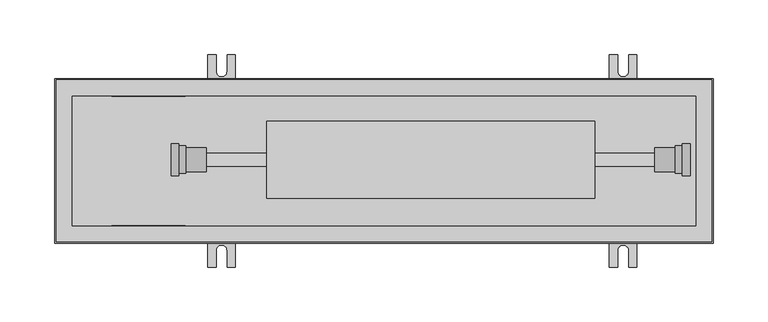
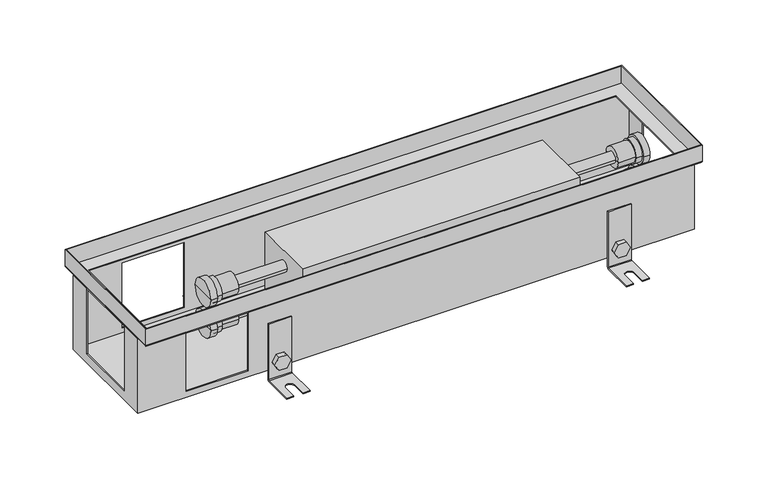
"""IFC4 building model written with IfcOpenShell, lengths in millimetres: proxy geometry, TECHNO_Конвектор встраиваемый_Power_KVP_150_65-85-105 : KVP 150-105."""

from ifc_helpers import new_model, si_unit, point, frame, frame_2d, origin, place, context, project, spatial, polyline, circle_curve, ellipse_curve, trimmed, segment, composite_curve, outline, extrude, faceted_brep, source, transform, mapped, element, save
from ifc_brep_helpers import plane_surface, cylinder_surface, revolved_surface, advanced_brep


def mechanical_equipment_002f7a25(model_context):
    return source(origin(), model_context, "Body", "SolidModel", [
        extrude(outline(composite_curve([segment(trimmed(circle_curve(frame_2d((-95.5, 518.0)), 7.5), [point((-95.5, 510.5))], [point((-95.5, 525.5))], False, "CARTESIAN"), True, "CONTINUOUS"), segment(trimmed(circle_curve(frame_2d((-95.5, 518.0)), 7.5), [point((-95.5, 525.5))], [point((-95.5, 510.5))], False, "CARTESIAN"), True, "CONTINUOUS")], self_intersect=False)), frame((0.0, 60.2, 0.0), z_axis=(0.0, 1.0, 0.0), x_axis=(0.0, 0.0, 1.0)), (0.0, 0.0, 1.0), 1.5),
        extrude(outline(polyline([(-95.5, 509.339746), (-103.0, 513.669873), (-103.0, 522.330127), (-95.5, 526.660254), (-88.0, 522.330127), (-88.0, 513.669873), (-95.5, 509.339746)])), frame((0.0, 62.9, 0.0), z_axis=(0.0, 1.0, 0.0), x_axis=(0.0, 0.0, 1.0)), (0.0, 0.0, 1.0), 5.1),
        advanced_brep(
        [(530.5, 62.9, -50.5), (530.5, 61.7, -50.5), (530.5, 61.7, -113.5), (530.5, 63.7, -115.5), (530.5, 96.7, -115.5), (530.5, 96.7, -114.3), (530.5, 63.7, -114.3), (530.5, 62.9, -113.5), (505.5, 62.9, -50.5), (505.5, 62.9, -113.5), (505.5, 63.7, -114.3), (505.5, 96.7, -114.3), (505.5, 96.7, -115.5), (505.5, 63.7, -115.5), (505.5, 61.7, -113.5), (505.5, 61.7, -50.5), (523.0, 96.7, -114.3), (523.0, 81.7, -114.3), (513.0, 81.7, -114.3), (513.0, 96.7, -114.3), (513.0, 96.7, -115.5), (523.0, 96.7, -115.5), (513.0, 81.7, -115.5), (523.0, 81.7, -115.5)],
        [
            (0, 1),
            (1, 2),
            (2, 3, circle_curve(frame((530.5, 63.7, -113.5), z_axis=(1.0, 0.0, 0.0), x_axis=(0.0, 1.0, 0.0)), 2.0)),
            (3, 4),
            (4, 5),
            (5, 6),
            (6, 7, circle_curve(frame((530.5, 63.7, -113.5), z_axis=(-1.0, 0.0, 0.0), x_axis=(0.0, 1.0, 0.0)), 0.8)),
            (7, 0),
            (8, 9),
            (9, 10, circle_curve(frame((505.5, 63.7, -113.5), z_axis=(1.0, 0.0, 0.0), x_axis=(0.0, 1.0, 0.0)), 0.8)),
            (10, 11),
            (11, 12),
            (12, 13),
            (13, 14, circle_curve(frame((505.5, 63.7, -113.5), z_axis=(-1.0, 0.0, 0.0), x_axis=(0.0, 1.0, 0.0)), 2.0)),
            (14, 15),
            (15, 8),
            (7, 9),
            (8, 0),
            (6, 10),
            (5, 16),
            (16, 17),
            (17, 18, circle_curve(frame((518.0, 81.7, -114.3), z_axis=(0.0, 0.0, -1.0), x_axis=(1.0, 0.0, 0.0)), 5.0)),
            (18, 19),
            (19, 11),
            (19, 20),
            (20, 12),
            (4, 21),
            (21, 16),
            (3, 13),
            (20, 22),
            (22, 23, circle_curve(frame((518.0, 81.7, -115.5), z_axis=(0.0, 0.0, 1.0), x_axis=(1.0, 0.0, 0.0)), 5.0)),
            (23, 21),
            (2, 14),
            (1, 15),
            (18, 22),
            (23, 17),
        ],
        [
            plane_surface(frame((530.5, 62.9, -50.5), z_axis=(1.0, 0.0, 0.0), x_axis=(0.0, 0.0, -1.0))),
            plane_surface(frame((505.5, 62.9, -50.5), z_axis=(-1.0, 0.0, 0.0), x_axis=(0.0, 0.0, 1.0))),
            plane_surface(frame((530.5, 62.9, -50.5), z_axis=(0.0, 1.0, 0.0), x_axis=(-1.0, 0.0, 0.0))),
            revolved_surface(polyline([(505.5, 64.5, -113.5), (530.5, 64.5, -113.5)]), (505.5, 63.7, -113.5), (-1.0, 0.0, 0.0)),
            plane_surface(frame((530.5, 63.7, -114.3), z_axis=(0.0, 0.0, 1.0), x_axis=(-1.0, 0.0, 0.0))),
            plane_surface(frame((530.5, 96.7, -114.3), z_axis=(0.0, 1.0, 0.0), x_axis=(-1.0, 0.0, 0.0))),
            plane_surface(frame((530.5, 96.7, -115.5), z_axis=(0.0, 0.0, -1.0), x_axis=(-1.0, 0.0, 0.0))),
            cylinder_surface(frame((505.5, 63.7, -113.5), z_axis=(1.0, 0.0, 0.0), x_axis=(0.0, 1.0, 0.0)), 2.0),
            plane_surface(frame((530.5, 61.7, -113.5), z_axis=(0.0, -1.0, 0.0), x_axis=(-1.0, 0.0, 0.0))),
            plane_surface(frame((530.5, 61.7, -50.5), z_axis=(0.0, 0.0, 1.0), x_axis=(-1.0, 0.0, 0.0))),
            plane_surface(frame((513.0, 81.7, -114.3), z_axis=(1.0, 0.0, 0.0), x_axis=(0.0, 0.0, -1.0))),
            plane_surface(frame((523.0, 96.7, -114.3), z_axis=(-1.0, 0.0, 0.0), x_axis=(0.0, 0.0, -1.0))),
            revolved_surface(polyline([(523.0, 81.7, -114.3), (523.0, 81.7, -115.5)]), (518.0, 81.7, -115.5), (0.0, 0.0, 1.0)),
        ],
        [
            (0, [[1, 2, 3, 4, 5, 6, 7, 8]]),
            (1, [[9, 10, 11, 12, 13, 14, 15, 16]]),
            (2, [[17, -9, 18, -8]]),
            (3, [[19, -10, -17, -7]]),
            (4, [[20, 21, 22, 23, 24, -11, -19, -6]]),
            (5, [[-24, 25, 26, -12]]),
            (5, [[27, 28, -20, -5]]),
            (6, [[29, -13, -26, 30, 31, 32, -27, -4]]),
            (7, [[33, -14, -29, -3]]),
            (8, [[34, -15, -33, -2]]),
            (9, [[-18, -16, -34, -1]]),
            (10, [[-30, -25, -23, 35]]),
            (11, [[-21, -28, -32, 36]]),
            (12, [[-22, -36, -31, -35]]),
        ],
    ),
        extrude(outline(composite_curve([segment(trimmed(circle_curve(frame_2d((-95.5, 518.0)), 7.5), [point((-95.5, 510.5))], [point((-95.5, 525.5))], False, "CARTESIAN"), True, "CONTINUOUS"), segment(trimmed(circle_curve(frame_2d((-95.5, 518.0)), 7.5), [point((-95.5, 525.5))], [point((-95.5, 510.5))], False, "CARTESIAN"), True, "CONTINUOUS")], self_intersect=False)), frame((0.0, -61.7, 0.0), z_axis=(0.0, 1.0, 0.0), x_axis=(0.0, 0.0, 1.0)), (0.0, 0.0, 1.0), 1.5),
        extrude(outline(polyline([(-95.5, 509.339746), (-103.0, 513.669873), (-103.0, 522.330127), (-95.5, 526.660254), (-88.0, 522.330127), (-88.0, 513.669873), (-95.5, 509.339746)])), frame((0.0, -68.0, 0.0), z_axis=(0.0, 1.0, 0.0), x_axis=(0.0, 0.0, 1.0)), (0.0, 0.0, 1.0), 5.1),
        advanced_brep(
        [(530.5, -62.9, -50.5), (530.5, -62.9, -113.5), (530.5, -63.7, -114.3), (530.5, -96.7, -114.3), (530.5, -96.7, -115.5), (530.5, -63.7, -115.5), (530.5, -61.7, -113.5), (530.5, -61.7, -50.5), (505.5, -62.9, -50.5), (505.5, -61.7, -50.5), (505.5, -61.7, -113.5), (505.5, -63.7, -115.5), (505.5, -96.7, -115.5), (505.5, -96.7, -114.3), (505.5, -63.7, -114.3), (505.5, -62.9, -113.5), (513.0, -96.7, -114.3), (513.0, -81.7, -114.3), (523.0, -81.7, -114.3), (523.0, -96.7, -114.3), (523.0, -96.7, -115.5), (513.0, -96.7, -115.5), (523.0, -81.7, -115.5), (513.0, -81.7, -115.5)],
        [
            (0, 1),
            (1, 2, circle_curve(frame((530.5, -63.7, -113.5), z_axis=(-1.0, 0.0, 0.0), x_axis=(0.0, -1.0, 0.0)), 0.8)),
            (2, 3),
            (3, 4),
            (4, 5),
            (5, 6, circle_curve(frame((530.5, -63.7, -113.5), z_axis=(1.0, 0.0, 0.0), x_axis=(0.0, -1.0, 0.0)), 2.0)),
            (6, 7),
            (7, 0),
            (8, 9),
            (9, 10),
            (10, 11, circle_curve(frame((505.5, -63.7, -113.5), z_axis=(-1.0, 0.0, 0.0), x_axis=(0.0, -1.0, 0.0)), 2.0)),
            (11, 12),
            (12, 13),
            (13, 14),
            (14, 15, circle_curve(frame((505.5, -63.7, -113.5), z_axis=(1.0, 0.0, 0.0), x_axis=(0.0, -1.0, 0.0)), 0.8)),
            (15, 8),
            (0, 8),
            (15, 1),
            (14, 2),
            (13, 16),
            (16, 17),
            (17, 18, circle_curve(frame((518.0, -81.7, -114.3), z_axis=(0.0, 0.0, -1.0), x_axis=(1.0, 0.0, 0.0)), 5.0)),
            (18, 19),
            (19, 3),
            (19, 20),
            (20, 4),
            (12, 21),
            (21, 16),
            (20, 22),
            (22, 23, circle_curve(frame((518.0, -81.7, -115.5), z_axis=(0.0, 0.0, 1.0), x_axis=(1.0, 0.0, 0.0)), 5.0)),
            (23, 21),
            (11, 5),
            (10, 6),
            (9, 7),
            (23, 17),
            (18, 22),
        ],
        [
            plane_surface(frame((530.5, -62.9, -50.5), z_axis=(1.0, 0.0, 0.0), x_axis=(0.0, 0.0, -1.0))),
            plane_surface(frame((505.5, -62.9, -50.5), z_axis=(-1.0, 0.0, 0.0), x_axis=(0.0, 0.0, 1.0))),
            plane_surface(frame((530.5, -62.9, -50.5), z_axis=(0.0, -1.0, 0.0), x_axis=(-1.0, 0.0, 0.0))),
            revolved_surface(polyline([(505.5, -64.5, -113.5), (530.5, -64.5, -113.5)]), (505.5, -63.7, -113.5), (-1.0, 0.0, 0.0)),
            plane_surface(frame((530.5, -63.7, -114.3), z_axis=(0.0, 0.0, 1.0), x_axis=(-1.0, 0.0, 0.0))),
            plane_surface(frame((530.5, -96.7, -114.3), z_axis=(0.0, -1.0, 0.0), x_axis=(-1.0, 0.0, 0.0))),
            plane_surface(frame((530.5, -96.7, -115.5), z_axis=(0.0, 0.0, -1.0), x_axis=(-1.0, 0.0, 0.0))),
            cylinder_surface(frame((505.5, -63.7, -113.5), z_axis=(1.0, 0.0, 0.0), x_axis=(0.0, -1.0, 0.0)), 2.0),
            plane_surface(frame((530.5, -61.7, -113.5), z_axis=(0.0, 1.0, 0.0), x_axis=(-1.0, 0.0, 0.0))),
            plane_surface(frame((530.5, -61.7, -50.5), z_axis=(0.0, 0.0, 1.0), x_axis=(-1.0, 0.0, 0.0))),
            plane_surface(frame((513.0, -81.7, -114.3), z_axis=(1.0, 0.0, 0.0), x_axis=(0.0, 0.0, -1.0))),
            plane_surface(frame((523.0, -96.7, -114.3), z_axis=(-1.0, 0.0, 0.0), x_axis=(0.0, 0.0, -1.0))),
            revolved_surface(polyline([(523.0, -81.7, -114.3), (523.0, -81.7, -115.5)]), (518.0, -81.7, -115.5), (0.0, 0.0, 1.0)),
        ],
        [
            (0, [[1, 2, 3, 4, 5, 6, 7, 8]]),
            (1, [[9, 10, 11, 12, 13, 14, 15, 16]]),
            (2, [[-1, 17, -16, 18]]),
            (3, [[-2, -18, -15, 19]]),
            (4, [[-3, -19, -14, 20, 21, 22, 23, 24]]),
            (5, [[-4, -24, 25, 26]]),
            (5, [[-13, 27, 28, -20]]),
            (6, [[-5, -26, 29, 30, 31, -27, -12, 32]]),
            (7, [[-6, -32, -11, 33]]),
            (8, [[-7, -33, -10, 34]]),
            (9, [[-8, -34, -9, -17]]),
            (10, [[35, -21, -28, -31]]),
            (11, [[36, -29, -25, -23]]),
            (12, [[-35, -30, -36, -22]]),
        ],
    ),
        extrude(outline(composite_curve([segment(trimmed(circle_curve(frame_2d((-95.5, 152.0)), 7.5), [point((-95.5, 144.5))], [point((-95.5, 159.5))], False, "CARTESIAN"), True, "CONTINUOUS"), segment(trimmed(circle_curve(frame_2d((-95.5, 152.0)), 7.5), [point((-95.5, 159.5))], [point((-95.5, 144.5))], False, "CARTESIAN"), True, "CONTINUOUS")], self_intersect=False)), frame((0.0, 60.2, 0.0), z_axis=(0.0, 1.0, 0.0), x_axis=(0.0, 0.0, 1.0)), (0.0, 0.0, 1.0), 1.5),
        extrude(outline(polyline([(-95.5, 143.339746), (-103.0, 147.669873), (-103.0, 156.330127), (-95.5, 160.660254), (-88.0, 156.330127), (-88.0, 147.669873), (-95.5, 143.339746)])), frame((0.0, 62.9, 0.0), z_axis=(0.0, 1.0, 0.0), x_axis=(0.0, 0.0, 1.0)), (0.0, 0.0, 1.0), 5.1),
        advanced_brep(
        [(164.5, 62.9, -50.5), (164.5, 61.7, -50.5), (164.5, 61.7, -113.5), (164.5, 63.7, -115.5), (164.5, 96.7, -115.5), (164.5, 96.7, -114.3), (164.5, 63.7, -114.3), (164.5, 62.9, -113.5), (139.5, 62.9, -50.5), (139.5, 62.9, -113.5), (139.5, 63.7, -114.3), (139.5, 96.7, -114.3), (139.5, 96.7, -115.5), (139.5, 63.7, -115.5), (139.5, 61.7, -113.5), (139.5, 61.7, -50.5), (157.0, 96.7, -114.3), (157.0, 81.7, -114.3), (147.0, 81.7, -114.3), (147.0, 96.7, -114.3), (147.0, 96.7, -115.5), (157.0, 96.7, -115.5), (147.0, 81.7, -115.5), (157.0, 81.7, -115.5)],
        [
            (0, 1),
            (1, 2),
            (2, 3, circle_curve(frame((164.5, 63.7, -113.5), z_axis=(1.0, 0.0, 0.0), x_axis=(0.0, 1.0, 0.0)), 2.0)),
            (3, 4),
            (4, 5),
            (5, 6),
            (6, 7, circle_curve(frame((164.5, 63.7, -113.5), z_axis=(-1.0, 0.0, 0.0), x_axis=(0.0, 1.0, 0.0)), 0.8)),
            (7, 0),
            (8, 9),
            (9, 10, circle_curve(frame((139.5, 63.7, -113.5), z_axis=(1.0, 0.0, 0.0), x_axis=(0.0, 1.0, 0.0)), 0.8)),
            (10, 11),
            (11, 12),
            (12, 13),
            (13, 14, circle_curve(frame((139.5, 63.7, -113.5), z_axis=(-1.0, 0.0, 0.0), x_axis=(0.0, 1.0, 0.0)), 2.0)),
            (14, 15),
            (15, 8),
            (7, 9),
            (8, 0),
            (6, 10),
            (5, 16),
            (16, 17),
            (17, 18, circle_curve(frame((152.0, 81.7, -114.3), z_axis=(0.0, 0.0, -1.0), x_axis=(1.0, 0.0, 0.0)), 5.0)),
            (18, 19),
            (19, 11),
            (19, 20),
            (20, 12),
            (4, 21),
            (21, 16),
            (3, 13),
            (20, 22),
            (22, 23, circle_curve(frame((152.0, 81.7, -115.5), z_axis=(0.0, 0.0, 1.0), x_axis=(1.0, 0.0, 0.0)), 5.0)),
            (23, 21),
            (2, 14),
            (1, 15),
            (18, 22),
            (23, 17),
        ],
        [
            plane_surface(frame((164.5, 62.9, -50.5), z_axis=(1.0, 0.0, 0.0), x_axis=(0.0, 0.0, -1.0))),
            plane_surface(frame((139.5, 62.9, -50.5), z_axis=(-1.0, 0.0, 0.0), x_axis=(0.0, 0.0, 1.0))),
            plane_surface(frame((164.5, 62.9, -50.5), z_axis=(0.0, 1.0, 0.0), x_axis=(-1.0, 0.0, 0.0))),
            revolved_surface(polyline([(139.5, 64.5, -113.5), (164.5, 64.5, -113.5)]), (139.5, 63.7, -113.5), (-1.0, 0.0, 0.0)),
            plane_surface(frame((164.5, 63.7, -114.3), z_axis=(0.0, 0.0, 1.0), x_axis=(-1.0, 0.0, 0.0))),
            plane_surface(frame((164.5, 96.7, -114.3), z_axis=(0.0, 1.0, 0.0), x_axis=(-1.0, 0.0, 0.0))),
            plane_surface(frame((164.5, 96.7, -115.5), z_axis=(0.0, 0.0, -1.0), x_axis=(-1.0, 0.0, 0.0))),
            cylinder_surface(frame((139.5, 63.7, -113.5), z_axis=(1.0, 0.0, 0.0), x_axis=(0.0, 1.0, 0.0)), 2.0),
            plane_surface(frame((164.5, 61.7, -113.5), z_axis=(0.0, -1.0, 0.0), x_axis=(-1.0, 0.0, 0.0))),
            plane_surface(frame((164.5, 61.7, -50.5), z_axis=(0.0, 0.0, 1.0), x_axis=(-1.0, 0.0, 0.0))),
            plane_surface(frame((147.0, 81.7, -114.3), z_axis=(1.0, 0.0, 0.0), x_axis=(0.0, 0.0, -1.0))),
            plane_surface(frame((157.0, 96.7, -114.3), z_axis=(-1.0, 0.0, 0.0), x_axis=(0.0, 0.0, -1.0))),
            revolved_surface(polyline([(157.0, 81.7, -114.3), (157.0, 81.7, -115.5)]), (152.0, 81.7, -115.5), (0.0, 0.0, 1.0)),
        ],
        [
            (0, [[1, 2, 3, 4, 5, 6, 7, 8]]),
            (1, [[9, 10, 11, 12, 13, 14, 15, 16]]),
            (2, [[17, -9, 18, -8]]),
            (3, [[19, -10, -17, -7]]),
            (4, [[20, 21, 22, 23, 24, -11, -19, -6]]),
            (5, [[-24, 25, 26, -12]]),
            (5, [[27, 28, -20, -5]]),
            (6, [[29, -13, -26, 30, 31, 32, -27, -4]]),
            (7, [[33, -14, -29, -3]]),
            (8, [[34, -15, -33, -2]]),
            (9, [[-18, -16, -34, -1]]),
            (10, [[-30, -25, -23, 35]]),
            (11, [[-21, -28, -32, 36]]),
            (12, [[-22, -36, -31, -35]]),
        ],
    ),
        extrude(outline(composite_curve([segment(trimmed(circle_curve(frame_2d((-95.5, 152.0)), 7.5), [point((-95.5, 144.5))], [point((-95.5, 159.5))], False, "CARTESIAN"), True, "CONTINUOUS"), segment(trimmed(circle_curve(frame_2d((-95.5, 152.0)), 7.5), [point((-95.5, 159.5))], [point((-95.5, 144.5))], False, "CARTESIAN"), True, "CONTINUOUS")], self_intersect=False)), frame((0.0, -61.7, 0.0), z_axis=(0.0, 1.0, 0.0), x_axis=(0.0, 0.0, 1.0)), (0.0, 0.0, 1.0), 1.5),
        extrude(outline(polyline([(-95.5, 143.339746), (-103.0, 147.669873), (-103.0, 156.330127), (-95.5, 160.660254), (-88.0, 156.330127), (-88.0, 147.669873), (-95.5, 143.339746)])), frame((0.0, -68.0, 0.0), z_axis=(0.0, 1.0, 0.0), x_axis=(0.0, 0.0, 1.0)), (0.0, 0.0, 1.0), 5.1),
        advanced_brep(
        [(164.5, -62.9, -50.5), (164.5, -62.9, -113.5), (164.5, -63.7, -114.3), (164.5, -96.7, -114.3), (164.5, -96.7, -115.5), (164.5, -63.7, -115.5), (164.5, -61.7, -113.5), (164.5, -61.7, -50.5), (139.5, -62.9, -50.5), (139.5, -61.7, -50.5), (139.5, -61.7, -113.5), (139.5, -63.7, -115.5), (139.5, -96.7, -115.5), (139.5, -96.7, -114.3), (139.5, -63.7, -114.3), (139.5, -62.9, -113.5), (147.0, -96.7, -114.3), (147.0, -81.7, -114.3), (157.0, -81.7, -114.3), (157.0, -96.7, -114.3), (157.0, -96.7, -115.5), (147.0, -96.7, -115.5), (157.0, -81.7, -115.5), (147.0, -81.7, -115.5)],
        [
            (0, 1),
            (1, 2, circle_curve(frame((164.5, -63.7, -113.5), z_axis=(-1.0, 0.0, 0.0), x_axis=(0.0, -1.0, 0.0)), 0.8)),
            (2, 3),
            (3, 4),
            (4, 5),
            (5, 6, circle_curve(frame((164.5, -63.7, -113.5), z_axis=(1.0, 0.0, 0.0), x_axis=(0.0, -1.0, 0.0)), 2.0)),
            (6, 7),
            (7, 0),
            (8, 9),
            (9, 10),
            (10, 11, circle_curve(frame((139.5, -63.7, -113.5), z_axis=(-1.0, 0.0, 0.0), x_axis=(0.0, -1.0, 0.0)), 2.0)),
            (11, 12),
            (12, 13),
            (13, 14),
            (14, 15, circle_curve(frame((139.5, -63.7, -113.5), z_axis=(1.0, 0.0, 0.0), x_axis=(0.0, -1.0, 0.0)), 0.8)),
            (15, 8),
            (0, 8),
            (15, 1),
            (14, 2),
            (13, 16),
            (16, 17),
            (17, 18, circle_curve(frame((152.0, -81.7, -114.3), z_axis=(0.0, 0.0, -1.0), x_axis=(1.0, 0.0, 0.0)), 5.0)),
            (18, 19),
            (19, 3),
            (19, 20),
            (20, 4),
            (12, 21),
            (21, 16),
            (20, 22),
            (22, 23, circle_curve(frame((152.0, -81.7, -115.5), z_axis=(0.0, 0.0, 1.0), x_axis=(1.0, 0.0, 0.0)), 5.0)),
            (23, 21),
            (11, 5),
            (10, 6),
            (9, 7),
            (23, 17),
            (18, 22),
        ],
        [
            plane_surface(frame((164.5, -62.9, -50.5), z_axis=(1.0, 0.0, 0.0), x_axis=(0.0, 0.0, -1.0))),
            plane_surface(frame((139.5, -62.9, -50.5), z_axis=(-1.0, 0.0, 0.0), x_axis=(0.0, 0.0, 1.0))),
            plane_surface(frame((164.5, -62.9, -50.5), z_axis=(0.0, -1.0, 0.0), x_axis=(-1.0, 0.0, 0.0))),
            revolved_surface(polyline([(139.5, -64.5, -113.5), (164.5, -64.5, -113.5)]), (139.5, -63.7, -113.5), (-1.0, 0.0, 0.0)),
            plane_surface(frame((164.5, -63.7, -114.3), z_axis=(0.0, 0.0, 1.0), x_axis=(-1.0, 0.0, 0.0))),
            plane_surface(frame((164.5, -96.7, -114.3), z_axis=(0.0, -1.0, 0.0), x_axis=(-1.0, 0.0, 0.0))),
            plane_surface(frame((164.5, -96.7, -115.5), z_axis=(0.0, 0.0, -1.0), x_axis=(-1.0, 0.0, 0.0))),
            cylinder_surface(frame((139.5, -63.7, -113.5), z_axis=(1.0, 0.0, 0.0), x_axis=(0.0, -1.0, 0.0)), 2.0),
            plane_surface(frame((164.5, -61.7, -113.5), z_axis=(0.0, 1.0, 0.0), x_axis=(-1.0, 0.0, 0.0))),
            plane_surface(frame((164.5, -61.7, -50.5), z_axis=(0.0, 0.0, 1.0), x_axis=(-1.0, 0.0, 0.0))),
            plane_surface(frame((147.0, -81.7, -114.3), z_axis=(1.0, 0.0, 0.0), x_axis=(0.0, 0.0, -1.0))),
            plane_surface(frame((157.0, -96.7, -114.3), z_axis=(-1.0, 0.0, 0.0), x_axis=(0.0, 0.0, -1.0))),
            revolved_surface(polyline([(157.0, -81.7, -114.3), (157.0, -81.7, -115.5)]), (152.0, -81.7, -115.5), (0.0, 0.0, 1.0)),
        ],
        [
            (0, [[1, 2, 3, 4, 5, 6, 7, 8]]),
            (1, [[9, 10, 11, 12, 13, 14, 15, 16]]),
            (2, [[-1, 17, -16, 18]]),
            (3, [[-2, -18, -15, 19]]),
            (4, [[-3, -19, -14, 20, 21, 22, 23, 24]]),
            (5, [[-4, -24, 25, 26]]),
            (5, [[-13, 27, 28, -20]]),
            (6, [[-5, -26, 29, 30, 31, -27, -12, 32]]),
            (7, [[-6, -32, -11, 33]]),
            (8, [[-7, -33, -10, 34]]),
            (9, [[-8, -34, -9, -17]]),
            (10, [[35, -21, -28, -31]]),
            (11, [[36, -29, -25, -23]]),
            (12, [[-35, -30, -36, -22]]),
        ],
    ),
        extrude(outline(composite_curve([segment(trimmed(circle_curve(frame_2d((1.2, -41.5)), 6.0), [point((-4.8, -41.5))], [point((7.2, -41.5))], False, "CARTESIAN"), True, "CONTINUOUS"), segment(trimmed(circle_curve(frame_2d((1.2, -41.5)), 6.0), [point((7.2, -41.5))], [point((-4.8, -41.5))], False, "CARTESIAN"), True, "CONTINUOUS")], self_intersect=False)), frame((138.0, 0.0, 0.0), z_axis=(1.0, 0.0, 0.0), x_axis=(0.0, 1.0, 0.0)), (0.0, 0.0, 1.0), 409.0),
        advanced_brep(
        [(138.0, -9.8, -76.5), (138.0, 12.2, -76.5), (138.0, 1.2, -76.5), (119.5, -9.8, -76.5), (119.5, 12.2, -76.5), (119.5, -11.3, -76.5), (119.5, 13.7, -76.5), (113.0, -11.3, -76.5), (113.0, 13.7, -76.5), (113.0, -13.5, -76.5), (113.0, 15.9, -76.5), (106.0, -13.5, -76.5), (106.0, 15.9, -76.5), (106.0, 1.2, -76.5)],
        [
            (0, 1, circle_curve(frame((138.0, 1.2, -76.5), z_axis=(1.0, 0.0, 0.0), x_axis=(0.0, 1.0, 0.0)), 11.0)),
            (1, 2),
            (2, 0),
            (1, 0, circle_curve(frame((138.0, 1.2, -76.5), z_axis=(1.0, 0.0, 0.0), x_axis=(0.0, 1.0, 0.0)), 11.0)),
            (3, 4, circle_curve(frame((119.5, 1.2, -76.5), z_axis=(1.0, 0.0, 0.0), x_axis=(0.0, 1.0, 0.0)), 11.0)),
            (4, 1),
            (0, 3),
            (4, 3, circle_curve(frame((119.5, 1.2, -76.5), z_axis=(1.0, 0.0, 0.0), x_axis=(0.0, 1.0, 0.0)), 11.0)),
            (5, 6, circle_curve(frame((119.5, 1.2, -76.5), z_axis=(1.0, 0.0, 0.0), x_axis=(0.0, 1.0, 0.0)), 12.5)),
            (6, 4),
            (3, 5),
            (6, 5, circle_curve(frame((119.5, 1.2, -76.5), z_axis=(1.0, 0.0, 0.0), x_axis=(0.0, 1.0, 0.0)), 12.5)),
            (7, 8, circle_curve(frame((113.0, 1.2, -76.5), z_axis=(1.0, 0.0, 0.0), x_axis=(0.0, 1.0, 0.0)), 12.5)),
            (8, 6),
            (5, 7),
            (8, 7, circle_curve(frame((113.0, 1.2, -76.5), z_axis=(1.0, 0.0, 0.0), x_axis=(0.0, 1.0, 0.0)), 12.5)),
            (9, 10, circle_curve(frame((113.0, 1.2, -76.5), z_axis=(1.0, 0.0, 0.0), x_axis=(0.0, 1.0, 0.0)), 14.7)),
            (10, 8),
            (7, 9),
            (10, 9, circle_curve(frame((113.0, 1.2, -76.5), z_axis=(1.0, 0.0, 0.0), x_axis=(0.0, 1.0, 0.0)), 14.7)),
            (11, 12, circle_curve(frame((106.0, 1.2, -76.5), z_axis=(1.0, 0.0, 0.0), x_axis=(0.0, 1.0, 0.0)), 14.7)),
            (12, 10),
            (9, 11),
            (12, 11, circle_curve(frame((106.0, 1.2, -76.5), z_axis=(1.0, 0.0, 0.0), x_axis=(0.0, 1.0, 0.0)), 14.7)),
            (13, 12),
            (11, 13),
        ],
        [
            plane_surface(frame((138.0, 1.2, -76.5), z_axis=(1.0, 0.0, 0.0), x_axis=(0.0, 1.0, 0.0))),
            cylinder_surface(frame((96.0, 1.2, -76.5), z_axis=(-1.0, 0.0, 0.0), x_axis=(0.0, 1.0, 0.0)), 11.0),
            plane_surface(frame((119.5, 1.2, -76.5), z_axis=(1.0, 0.0, 0.0), x_axis=(0.0, 1.0, 0.0))),
            cylinder_surface(frame((96.0, 1.2, -76.5), z_axis=(-1.0, 0.0, 0.0), x_axis=(0.0, 1.0, 0.0)), 12.5),
            plane_surface(frame((113.0, 1.2, -76.5), z_axis=(1.0, 0.0, 0.0), x_axis=(0.0, 1.0, 0.0))),
            cylinder_surface(frame((96.0, 1.2, -76.5), z_axis=(-1.0, 0.0, 0.0), x_axis=(0.0, 1.0, 0.0)), 14.7),
            plane_surface(frame((106.0, 1.2, -76.5), z_axis=(-1.0, 0.0, 0.0), x_axis=(0.0, 1.0, 0.0))),
        ],
        [
            (0, [[1, 2, 3]]),
            (0, [[4, -3, -2]]),
            (1, [[5, 6, -1, 7]]),
            (1, [[8, -7, -4, -6]]),
            (2, [[9, 10, -5, 11]]),
            (2, [[12, -11, -8, -10]]),
            (3, [[13, 14, -9, 15]]),
            (3, [[16, -15, -12, -14]]),
            (4, [[17, 18, -13, 19]]),
            (4, [[20, -19, -16, -18]]),
            (5, [[21, 22, -17, 23]]),
            (5, [[24, -23, -20, -22]]),
            (6, [[25, -21, 26]]),
            (6, [[-26, -24, -25]]),
        ],
    ),
        advanced_brep(
        [(138.0, -9.8, -41.5), (138.0, 12.2, -41.5), (138.0, 1.2, -41.5), (119.5, -9.8, -41.5), (119.5, 12.2, -41.5), (119.5, -11.3, -41.5), (119.5, 13.7, -41.5), (113.0, -11.3, -41.5), (113.0, 13.7, -41.5), (113.0, -13.5, -41.5), (113.0, 15.9, -41.5), (106.0, -13.5, -41.5), (106.0, 15.9, -41.5), (106.0, 1.2, -41.5)],
        [
            (0, 1, circle_curve(frame((138.0, 1.2, -41.5), z_axis=(1.0, 0.0, 0.0), x_axis=(0.0, 1.0, 0.0)), 11.0)),
            (1, 2),
            (2, 0),
            (1, 0, circle_curve(frame((138.0, 1.2, -41.5), z_axis=(1.0, 0.0, 0.0), x_axis=(0.0, 1.0, 0.0)), 11.0)),
            (3, 4, circle_curve(frame((119.5, 1.2, -41.5), z_axis=(1.0, 0.0, 0.0), x_axis=(0.0, 1.0, 0.0)), 11.0)),
            (4, 1),
            (0, 3),
            (4, 3, circle_curve(frame((119.5, 1.2, -41.5), z_axis=(1.0, 0.0, 0.0), x_axis=(0.0, 1.0, 0.0)), 11.0)),
            (5, 6, circle_curve(frame((119.5, 1.2, -41.5), z_axis=(1.0, 0.0, 0.0), x_axis=(0.0, 1.0, 0.0)), 12.5)),
            (6, 4),
            (3, 5),
            (6, 5, circle_curve(frame((119.5, 1.2, -41.5), z_axis=(1.0, 0.0, 0.0), x_axis=(0.0, 1.0, 0.0)), 12.5)),
            (7, 8, circle_curve(frame((113.0, 1.2, -41.5), z_axis=(1.0, 0.0, 0.0), x_axis=(0.0, 1.0, 0.0)), 12.5)),
            (8, 6),
            (5, 7),
            (8, 7, circle_curve(frame((113.0, 1.2, -41.5), z_axis=(1.0, 0.0, 0.0), x_axis=(0.0, 1.0, 0.0)), 12.5)),
            (9, 10, circle_curve(frame((113.0, 1.2, -41.5), z_axis=(1.0, 0.0, 0.0), x_axis=(0.0, 1.0, 0.0)), 14.7)),
            (10, 8),
            (7, 9),
            (10, 9, circle_curve(frame((113.0, 1.2, -41.5), z_axis=(1.0, 0.0, 0.0), x_axis=(0.0, 1.0, 0.0)), 14.7)),
            (11, 12, circle_curve(frame((106.0, 1.2, -41.5), z_axis=(1.0, 0.0, 0.0), x_axis=(0.0, 1.0, 0.0)), 14.7)),
            (12, 10),
            (9, 11),
            (12, 11, circle_curve(frame((106.0, 1.2, -41.5), z_axis=(1.0, 0.0, 0.0), x_axis=(0.0, 1.0, 0.0)), 14.7)),
            (13, 12),
            (11, 13),
        ],
        [
            plane_surface(frame((138.0, 1.2, -41.5), z_axis=(1.0, 0.0, 0.0), x_axis=(0.0, 1.0, 0.0))),
            cylinder_surface(frame((96.0, 1.2, -41.5), z_axis=(-1.0, 0.0, 0.0), x_axis=(0.0, 1.0, 0.0)), 11.0),
            plane_surface(frame((119.5, 1.2, -41.5), z_axis=(1.0, 0.0, 0.0), x_axis=(0.0, 1.0, 0.0))),
            cylinder_surface(frame((96.0, 1.2, -41.5), z_axis=(-1.0, 0.0, 0.0), x_axis=(0.0, 1.0, 0.0)), 12.5),
            plane_surface(frame((113.0, 1.2, -41.5), z_axis=(1.0, 0.0, 0.0), x_axis=(0.0, 1.0, 0.0))),
            cylinder_surface(frame((96.0, 1.2, -41.5), z_axis=(-1.0, 0.0, 0.0), x_axis=(0.0, 1.0, 0.0)), 14.7),
            plane_surface(frame((106.0, 1.2, -41.5), z_axis=(-1.0, 0.0, 0.0), x_axis=(0.0, 1.0, 0.0))),
        ],
        [
            (0, [[1, 2, 3]]),
            (0, [[4, -3, -2]]),
            (1, [[5, 6, -1, 7]]),
            (1, [[8, -7, -4, -6]]),
            (2, [[9, 10, -5, 11]]),
            (2, [[12, -11, -8, -10]]),
            (3, [[13, 14, -9, 15]]),
            (3, [[16, -15, -12, -14]]),
            (4, [[17, 18, -13, 19]]),
            (4, [[20, -19, -16, -18]]),
            (5, [[21, 22, -17, 23]]),
            (5, [[24, -23, -20, -22]]),
            (6, [[25, -21, 26]]),
            (6, [[-26, -24, -25]]),
        ],
    ),
        extrude(outline(polyline([(492.0, 36.2), (492.0, -33.8), (193.0, -33.8), (193.0, 36.2), (492.0, 36.2)])), frame((0.0, 0.0, -94.0), z_axis=(0.0, 0.0, 1.0), x_axis=(1.0, 0.0, 0.0)), (0.0, 0.0, 1.0), 70.0),
        advanced_brep(
        [(547.0, 1.2, -76.5), (547.0, 12.2, -76.5), (547.0, -9.8, -76.5), (565.5, 12.2, -76.5), (565.5, -9.8, -76.5), (565.5, 13.7, -76.5), (565.5, -11.3, -76.5), (572.0, 13.7, -76.5), (572.0, -11.3, -76.5), (572.0, 15.9, -76.5), (572.0, -13.5, -76.5), (579.0, 15.9, -76.5), (579.0, -13.5, -76.5), (579.0, 1.2, -76.5)],
        [
            (0, 1),
            (1, 2, circle_curve(frame((547.0, 1.2, -76.5), z_axis=(-1.0, 0.0, 0.0), x_axis=(0.0, 1.0, 0.0)), 11.0)),
            (2, 0),
            (2, 1, circle_curve(frame((547.0, 1.2, -76.5), z_axis=(-1.0, 0.0, 0.0), x_axis=(0.0, 1.0, 0.0)), 11.0)),
            (1, 3),
            (3, 4, circle_curve(frame((565.5, 1.2, -76.5), z_axis=(-1.0, 0.0, 0.0), x_axis=(0.0, 1.0, 0.0)), 11.0)),
            (4, 2),
            (4, 3, circle_curve(frame((565.5, 1.2, -76.5), z_axis=(-1.0, 0.0, 0.0), x_axis=(0.0, 1.0, 0.0)), 11.0)),
            (3, 5),
            (5, 6, circle_curve(frame((565.5, 1.2, -76.5), z_axis=(-1.0, 0.0, 0.0), x_axis=(0.0, 1.0, 0.0)), 12.5)),
            (6, 4),
            (6, 5, circle_curve(frame((565.5, 1.2, -76.5), z_axis=(-1.0, 0.0, 0.0), x_axis=(0.0, 1.0, 0.0)), 12.5)),
            (5, 7),
            (7, 8, circle_curve(frame((572.0, 1.2, -76.5), z_axis=(-1.0, 0.0, 0.0), x_axis=(0.0, 1.0, 0.0)), 12.5)),
            (8, 6),
            (8, 7, circle_curve(frame((572.0, 1.2, -76.5), z_axis=(-1.0, 0.0, 0.0), x_axis=(0.0, 1.0, 0.0)), 12.5)),
            (7, 9),
            (9, 10, circle_curve(frame((572.0, 1.2, -76.5), z_axis=(-1.0, 0.0, 0.0), x_axis=(0.0, 1.0, 0.0)), 14.7)),
            (10, 8),
            (10, 9, circle_curve(frame((572.0, 1.2, -76.5), z_axis=(-1.0, 0.0, 0.0), x_axis=(0.0, 1.0, 0.0)), 14.7)),
            (9, 11),
            (11, 12, circle_curve(frame((579.0, 1.2, -76.5), z_axis=(-1.0, 0.0, 0.0), x_axis=(0.0, 1.0, 0.0)), 14.7)),
            (12, 10),
            (12, 11, circle_curve(frame((579.0, 1.2, -76.5), z_axis=(-1.0, 0.0, 0.0), x_axis=(0.0, 1.0, 0.0)), 14.7)),
            (11, 13),
            (13, 12),
        ],
        [
            plane_surface(frame((547.0, 1.2, -76.5), z_axis=(-1.0, 0.0, 0.0), x_axis=(0.0, 1.0, 0.0))),
            cylinder_surface(frame((51.0, 1.2, -76.5), z_axis=(-1.0, 0.0, 0.0), x_axis=(0.0, 1.0, 0.0)), 11.0),
            plane_surface(frame((565.5, 1.2, -76.5), z_axis=(-1.0, 0.0, 0.0), x_axis=(0.0, 1.0, 0.0))),
            cylinder_surface(frame((51.0, 1.2, -76.5), z_axis=(-1.0, 0.0, 0.0), x_axis=(0.0, 1.0, 0.0)), 12.5),
            plane_surface(frame((572.0, 1.2, -76.5), z_axis=(-1.0, 0.0, 0.0), x_axis=(0.0, 1.0, 0.0))),
            cylinder_surface(frame((51.0, 1.2, -76.5), z_axis=(-1.0, 0.0, 0.0), x_axis=(0.0, 1.0, 0.0)), 14.7),
            plane_surface(frame((579.0, 1.2, -76.5), z_axis=(1.0, 0.0, 0.0), x_axis=(0.0, 1.0, 0.0))),
        ],
        [
            (0, [[1, 2, 3]]),
            (0, [[-3, 4, -1]]),
            (1, [[-2, 5, 6, 7]]),
            (1, [[-4, -7, 8, -5]]),
            (2, [[-6, 9, 10, 11]]),
            (2, [[-8, -11, 12, -9]]),
            (3, [[-10, 13, 14, 15]]),
            (3, [[-12, -15, 16, -13]]),
            (4, [[-14, 17, 18, 19]]),
            (4, [[-16, -19, 20, -17]]),
            (5, [[-18, 21, 22, 23]]),
            (5, [[-20, -23, 24, -21]]),
            (6, [[-22, 25, 26]]),
            (6, [[-24, -26, -25]]),
        ],
    ),
        advanced_brep(
        [(547.0, 1.2, -41.5), (547.0, 12.2, -41.5), (547.0, -9.8, -41.5), (565.5, 12.2, -41.5), (565.5, -9.8, -41.5), (565.5, 13.7, -41.5), (565.5, -11.3, -41.5), (572.0, 13.7, -41.5), (572.0, -11.3, -41.5), (572.0, 15.9, -41.5), (572.0, -13.5, -41.5), (579.0, 15.9, -41.5), (579.0, -13.5, -41.5), (579.0, 1.2, -41.5)],
        [
            (0, 1),
            (1, 2, circle_curve(frame((547.0, 1.2, -41.5), z_axis=(-1.0, 0.0, 0.0), x_axis=(0.0, 1.0, 0.0)), 11.0)),
            (2, 0),
            (2, 1, circle_curve(frame((547.0, 1.2, -41.5), z_axis=(-1.0, 0.0, 0.0), x_axis=(0.0, 1.0, 0.0)), 11.0)),
            (1, 3),
            (3, 4, circle_curve(frame((565.5, 1.2, -41.5), z_axis=(-1.0, 0.0, 0.0), x_axis=(0.0, 1.0, 0.0)), 11.0)),
            (4, 2),
            (4, 3, circle_curve(frame((565.5, 1.2, -41.5), z_axis=(-1.0, 0.0, 0.0), x_axis=(0.0, 1.0, 0.0)), 11.0)),
            (3, 5),
            (5, 6, circle_curve(frame((565.5, 1.2, -41.5), z_axis=(-1.0, 0.0, 0.0), x_axis=(0.0, 1.0, 0.0)), 12.5)),
            (6, 4),
            (6, 5, circle_curve(frame((565.5, 1.2, -41.5), z_axis=(-1.0, 0.0, 0.0), x_axis=(0.0, 1.0, 0.0)), 12.5)),
            (5, 7),
            (7, 8, circle_curve(frame((572.0, 1.2, -41.5), z_axis=(-1.0, 0.0, 0.0), x_axis=(0.0, 1.0, 0.0)), 12.5)),
            (8, 6),
            (8, 7, circle_curve(frame((572.0, 1.2, -41.5), z_axis=(-1.0, 0.0, 0.0), x_axis=(0.0, 1.0, 0.0)), 12.5)),
            (7, 9),
            (9, 10, circle_curve(frame((572.0, 1.2, -41.5), z_axis=(-1.0, 0.0, 0.0), x_axis=(0.0, 1.0, 0.0)), 14.7)),
            (10, 8),
            (10, 9, circle_curve(frame((572.0, 1.2, -41.5), z_axis=(-1.0, 0.0, 0.0), x_axis=(0.0, 1.0, 0.0)), 14.7)),
            (9, 11),
            (11, 12, circle_curve(frame((579.0, 1.2, -41.5), z_axis=(-1.0, 0.0, 0.0), x_axis=(0.0, 1.0, 0.0)), 14.7)),
            (12, 10),
            (12, 11, circle_curve(frame((579.0, 1.2, -41.5), z_axis=(-1.0, 0.0, 0.0), x_axis=(0.0, 1.0, 0.0)), 14.7)),
            (11, 13),
            (13, 12),
        ],
        [
            plane_surface(frame((547.0, 1.2, -41.5), z_axis=(-1.0, 0.0, 0.0), x_axis=(0.0, 1.0, 0.0))),
            cylinder_surface(frame((51.0, 1.2, -41.5), z_axis=(-1.0, 0.0, 0.0), x_axis=(0.0, 1.0, 0.0)), 11.0),
            plane_surface(frame((565.5, 1.2, -41.5), z_axis=(-1.0, 0.0, 0.0), x_axis=(0.0, 1.0, 0.0))),
            cylinder_surface(frame((51.0, 1.2, -41.5), z_axis=(-1.0, 0.0, 0.0), x_axis=(0.0, 1.0, 0.0)), 12.5),
            plane_surface(frame((572.0, 1.2, -41.5), z_axis=(-1.0, 0.0, 0.0), x_axis=(0.0, 1.0, 0.0))),
            cylinder_surface(frame((51.0, 1.2, -41.5), z_axis=(-1.0, 0.0, 0.0), x_axis=(0.0, 1.0, 0.0)), 14.7),
            plane_surface(frame((579.0, 1.2, -41.5), z_axis=(1.0, 0.0, 0.0), x_axis=(0.0, 1.0, 0.0))),
        ],
        [
            (0, [[1, 2, 3]]),
            (0, [[-3, 4, -1]]),
            (1, [[-2, 5, 6, 7]]),
            (1, [[-4, -7, 8, -5]]),
            (2, [[-6, 9, 10, 11]]),
            (2, [[-8, -11, 12, -9]]),
            (3, [[-10, 13, 14, 15]]),
            (3, [[-12, -15, 16, -13]]),
            (4, [[-14, 17, 18, 19]]),
            (4, [[-16, -19, 20, -17]]),
            (5, [[-18, 21, 22, 23]]),
            (5, [[-20, -23, 24, -21]]),
            (6, [[-22, 25, 26]]),
            (6, [[-24, -26, -25]]),
        ],
    ),
        extrude(outline(composite_curve([segment(trimmed(circle_curve(frame_2d((1.2, -76.5)), 6.0), [point((-4.8, -76.5))], [point((7.2, -76.5))], False, "CARTESIAN"), True, "CONTINUOUS"), segment(trimmed(circle_curve(frame_2d((1.2, -76.5)), 6.0), [point((7.2, -76.5))], [point((-4.8, -76.5))], False, "CARTESIAN"), True, "CONTINUOUS")], self_intersect=False)), frame((138.0, 0.0, 0.0), z_axis=(1.0, 0.0, 0.0), x_axis=(0.0, 1.0, 0.0)), (0.0, 0.0, 1.0), 409.0),
        faceted_brep([(598.8, -59.0, -103.8), (598.8, 59.0, -103.8), (1.2, 59.0, -103.8), (1.2, -59.0, -103.8), (0.0, -60.2, -105.0), (0.0, 60.2, -105.0), (600.0, 60.2, -105.0), (600.0, -60.2, -105.0), (600.0, -60.2, -20.5), (0.0, -60.2, -20.5), (52.0, -60.2, -24.0), (119.0, -60.2, -24.0), (119.0, -60.2, -98.0), (52.0, -60.2, -98.0), (600.0, 60.2, -20.5), (600.0, 35.0, -20.8), (600.0, 35.0, -94.8), (600.0, -35.0, -94.8), (600.0, -35.0, -20.8), (0.0, 60.2, -20.5), (119.0, 60.2, -24.0), (52.0, 60.2, -24.0), (52.0, 60.2, -98.0), (119.0, 60.2, -98.0), (0.0, 35.0, -94.8), (0.0, 35.0, -20.8), (0.0, -35.0, -20.8), (0.0, -35.0, -94.8), (598.8, -59.0, -20.5), (598.8, 59.0, -20.5), (598.8, 35.0, -94.8), (598.8, 35.0, -20.8), (598.8, -35.0, -20.8), (598.8, -35.0, -94.8), (1.2, -59.0, -20.5), (119.0, -59.0, -24.0), (52.0, -59.0, -24.0), (52.0, -59.0, -98.0), (119.0, -59.0, -98.0), (1.2, 59.0, -20.5), (1.2, 35.0, -20.8), (1.2, 35.0, -94.8), (1.2, -35.0, -94.8), (1.2, -35.0, -20.8), (52.0, 59.0, -24.0), (119.0, 59.0, -24.0), (119.0, 59.0, -98.0), (52.0, 59.0, -98.0)], [[[0, 1, 2, 3]], [[4, 5, 6, 7]], [[4, 7, 8, 9], [10, 11, 12, 13]], [[7, 6, 14, 8], [15, 16, 17, 18]], [[6, 5, 19, 14], [20, 21, 22, 23]], [[5, 4, 9, 19], [24, 25, 26, 27]], [[28, 29, 1, 0], [30, 31, 32, 33]], [[34, 28, 0, 3], [35, 36, 37, 38]], [[39, 34, 3, 2], [40, 41, 42, 43]], [[29, 39, 2, 1], [44, 45, 46, 47]], [[8, 14, 19, 9], [29, 28, 34, 39]], [[35, 11, 10, 36]], [[20, 45, 44, 21]], [[36, 10, 13, 37]], [[21, 44, 47, 22]], [[37, 13, 12, 38]], [[22, 47, 46, 23]], [[11, 35, 38, 12]], [[45, 20, 23, 46]], [[15, 31, 30, 16]], [[31, 15, 18, 32]], [[32, 18, 17, 33]], [[16, 30, 33, 17]], [[24, 41, 40, 25]], [[25, 40, 43, 26]], [[26, 43, 42, 27]], [[41, 24, 27, 42]]]),
        advanced_brep(
        [(584.0, 59.0, -19.3), (584.0, 59.0, -20.5), (584.0, -59.0, -20.5), (584.0, -59.0, -19.3), (598.8, 73.8, 0.0), (598.8, 73.8, -19.3), (598.8, -73.8, -19.3), (598.8, -73.8, 0.0), (600.0, 75.0, -18.5), (600.0, 75.0, 0.0), (600.0, -75.0, 0.0), (600.0, -75.0, -18.5), (16.0, -59.0, -20.5), (16.0, -59.0, -19.3), (1.2, -73.8, -19.3), (1.2, -73.8, 0.0), (0.0, -75.0, 0.0), (0.0, -75.0, -18.5), (16.0, 59.0, -20.5), (16.0, 59.0, -19.3), (1.2, 73.8, -19.3), (1.2, 73.8, 0.0), (0.0, 75.0, 0.0), (0.0, 75.0, -18.5), (598.0, -73.0, -20.5), (2.0, -73.0, -20.5), (2.0, 73.0, -20.5), (598.0, 73.0, -20.5)],
        [
            (0, 1),
            (1, 2),
            (2, 3),
            (3, 0),
            (4, 5),
            (5, 6),
            (6, 7),
            (7, 4),
            (8, 9),
            (9, 10),
            (10, 11),
            (11, 8),
            (2, 12),
            (12, 13),
            (13, 3),
            (6, 14),
            (14, 15),
            (15, 7),
            (10, 16),
            (16, 17),
            (17, 11),
            (12, 18),
            (18, 19),
            (19, 13),
            (14, 20),
            (20, 21),
            (21, 15),
            (16, 22),
            (22, 23),
            (23, 17),
            (24, 25),
            (25, 26),
            (26, 27),
            (27, 24),
            (1, 18),
            (0, 19),
            (5, 20),
            (4, 21),
            (9, 22),
            (8, 23),
            (27, 8, ellipse_curve(frame((598.0, 73.0, -18.5), z_axis=(0.7071067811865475, -0.7071067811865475, 0.0), x_axis=(0.7071067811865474, 0.7071067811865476, 0.0)), 2.8284271, 2.0)),
            (11, 24, ellipse_curve(frame((598.0, -73.0, -18.5), z_axis=(0.7071067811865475, 0.7071067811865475, 0.0), x_axis=(-0.7071067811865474, 0.7071067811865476, 0.0)), 2.8284271, 2.0)),
            (17, 25, ellipse_curve(frame((2.0, -73.0, -18.5), z_axis=(0.7071067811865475, -0.7071067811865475, 0.0), x_axis=(0.7071067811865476, 0.7071067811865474, 0.0)), 2.8284271, 2.0)),
            (23, 26, ellipse_curve(frame((2.0, 73.0, -18.5), z_axis=(-0.7071067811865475, -0.7071067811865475, 0.0), x_axis=(0.7071067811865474, -0.7071067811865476, 0.0)), 2.8284271, 2.0)),
        ],
        [
            plane_surface(frame((584.0, 59.0, -20.5), z_axis=(-1.0, 0.0, 0.0), x_axis=(0.0, -1.0, 0.0))),
            plane_surface(frame((598.8, 73.8, -19.3), z_axis=(-1.0, 0.0, 0.0), x_axis=(0.0, -1.0, 0.0))),
            plane_surface(frame((600.0, 75.0, 0.0), z_axis=(1.0, 0.0, 0.0), x_axis=(0.0, -1.0, 0.0))),
            plane_surface(frame((584.0, -59.0, -20.5), z_axis=(0.0, 1.0, 0.0), x_axis=(-1.0, 0.0, 0.0))),
            plane_surface(frame((598.8, -73.8, -19.3), z_axis=(0.0, 1.0, 0.0), x_axis=(-1.0, 0.0, 0.0))),
            plane_surface(frame((600.0, -75.0, 0.0), z_axis=(0.0, -1.0, 0.0), x_axis=(-1.0, 0.0, 0.0))),
            plane_surface(frame((16.0, -59.0, -20.5), z_axis=(1.0, 0.0, 0.0), x_axis=(0.0, 1.0, 0.0))),
            plane_surface(frame((1.2, -73.8, -19.3), z_axis=(1.0, 0.0, 0.0), x_axis=(0.0, 1.0, 0.0))),
            plane_surface(frame((0.0, -75.0, 0.0), z_axis=(-1.0, 0.0, 0.0), x_axis=(0.0, 1.0, 0.0))),
            plane_surface(frame((2.0, 73.0, -20.5), z_axis=(0.0, 0.0, -1.0), x_axis=(1.0, 0.0, 0.0))),
            plane_surface(frame((16.0, 59.0, -20.5), z_axis=(0.0, -1.0, 0.0), x_axis=(1.0, 0.0, 0.0))),
            plane_surface(frame((16.0, 59.0, -19.3), z_axis=(0.0, 0.0, 1.0), x_axis=(1.0, 0.0, 0.0))),
            plane_surface(frame((1.2, 73.8, -19.3), z_axis=(0.0, -1.0, 0.0), x_axis=(1.0, 0.0, 0.0))),
            plane_surface(frame((1.2, 73.8, 0.0), z_axis=(0.0, 0.0, 1.0), x_axis=(1.0, 0.0, 0.0))),
            plane_surface(frame((0.0, 75.0, 0.0), z_axis=(0.0, 1.0, 0.0), x_axis=(1.0, 0.0, 0.0))),
            cylinder_surface(frame((598.0, 75.0, -18.5), z_axis=(0.0, 1.0, 0.0), x_axis=(1.0, 0.0, 0.0)), 2.0),
            cylinder_surface(frame((600.0, -73.0, -18.5), z_axis=(1.0, 0.0, 0.0), x_axis=(0.0, -1.0, 0.0)), 2.0),
            cylinder_surface(frame((2.0, -75.0, -18.5), z_axis=(0.0, -1.0, 0.0), x_axis=(-1.0, 0.0, 0.0)), 2.0),
            cylinder_surface(frame((0.0, 73.0, -18.5), z_axis=(-1.0, 0.0, 0.0), x_axis=(0.0, 1.0, 0.0)), 2.0),
        ],
        [
            (0, [[1, 2, 3, 4]]),
            (1, [[5, 6, 7, 8]]),
            (2, [[9, 10, 11, 12]]),
            (3, [[-3, 13, 14, 15]]),
            (4, [[-7, 16, 17, 18]]),
            (5, [[-11, 19, 20, 21]]),
            (6, [[-14, 22, 23, 24]]),
            (7, [[-17, 25, 26, 27]]),
            (8, [[-20, 28, 29, 30]]),
            (9, [[31, 32, 33, 34], [35, -22, -13, -2]]),
            (10, [[-23, -35, -1, 36]]),
            (11, [[37, -25, -16, -6], [-15, -24, -36, -4]]),
            (12, [[-26, -37, -5, 38]]),
            (13, [[39, -28, -19, -10], [-18, -27, -38, -8]]),
            (14, [[-29, -39, -9, 40]]),
            (15, [[41, -12, 42, -34]]),
            (16, [[-42, -21, 43, -31]]),
            (17, [[-43, -30, 44, -32]]),
            (18, [[-44, -40, -41, -33]]),
        ],
    ),
    ])


if __name__ == "__main__":
    model = new_model("IFC4")
    model_context = context("Model", 3, world=origin())
    ifc_project = project(units=[si_unit("LENGTHUNIT", "METRE", prefix="MILLI")], contexts=[model_context])
    site = spatial("IfcSite", under=ifc_project)
    building = spatial("IfcBuilding", under=site)
    placement = place(None, origin())
    mechanical_equipment_shape = mechanical_equipment_002f7a25(model_context)
    element("IfcBuildingElementProxy", 1, Name="TECHNO_Конвектор встраиваемый_Power_KVP_150_65-85-105 : KVP 150-105", ObjectType="TECHNO_Конвектор встраиваемый_Power_KVP_150_65-85-105 : KVP 150-105", at=placement, inside=building, context=model_context, shape_type="MappedRepresentation", body=[
        mapped(mechanical_equipment_shape, transform((0.0, 0.0, 0.0), x_axis=(1.0, 0.0, 0.0), y_axis=(0.0, 1.0, 0.0), z_axis=(0.0, 0.0, 1.0))),
    ])
    save(model, "model.ifc")
